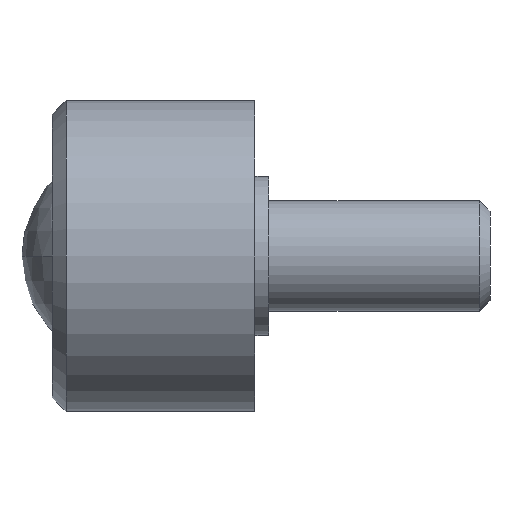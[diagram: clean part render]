
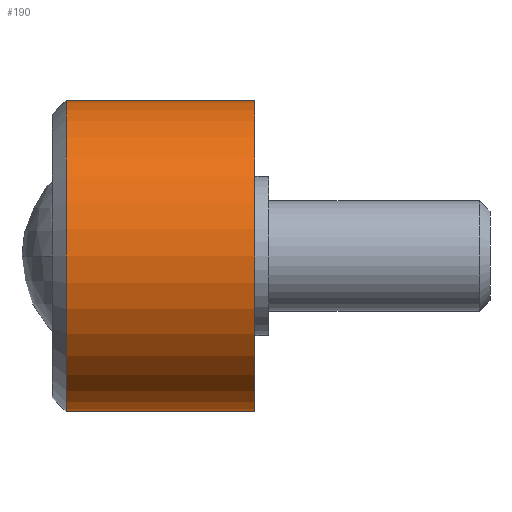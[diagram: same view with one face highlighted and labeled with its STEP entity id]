
A CAD part, left-side view. The second image highlights one B-rep face of the part: STEP entity #190.
In plain terms, the highlighted cylindrical face has radius 22.5 mm (diameter 45 mm), a partial arc.
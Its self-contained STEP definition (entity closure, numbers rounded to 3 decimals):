
#26 = CARTESIAN_POINT ( 'NONE',  ( 0., 0., -22.5 ) ) ;
#56 = VERTEX_POINT ( 'NONE', #577 ) ;
#66 = DIRECTION ( 'NONE',  ( 0., -1., 0. ) ) ;
#101 = ORIENTED_EDGE ( 'NONE', *, *, #470, .T. ) ;
#135 = CARTESIAN_POINT ( 'NONE',  ( 0., 0., 0. ) ) ;
#175 = DIRECTION ( 'NONE',  ( 0., 0., -1. ) ) ;
#190 = ADVANCED_FACE ( 'NONE', ( #406 ), #414, .T. ) ;
#206 = VERTEX_POINT ( 'NONE', #538 ) ;
#221 = DIRECTION ( 'NONE',  ( 0., -1., 0. ) ) ;
#228 = EDGE_CURVE ( 'NONE', #206, #56, #422, .T. ) ;
#233 = AXIS2_PLACEMENT_3D ( 'NONE', #135, #380, #389 ) ;
#275 = LINE ( 'NONE', #521, #545 ) ;
#300 = VERTEX_POINT ( 'NONE', #26 ) ;
#314 = EDGE_LOOP ( 'NONE', ( #728, #101, #721, #631 ) ) ;
#367 = VERTEX_POINT ( 'NONE', #439 ) ;
#380 = DIRECTION ( 'NONE',  ( 0., -1., 0. ) ) ;
#389 = DIRECTION ( 'NONE',  ( 0., 0., -1. ) ) ;
#406 = FACE_OUTER_BOUND ( 'NONE', #314, .T. ) ;
#409 = DIRECTION ( 'NONE',  ( 0., -1., 0. ) ) ;
#414 = CYLINDRICAL_SURFACE ( 'NONE', #544, 22.5 ) ;
#422 = LINE ( 'NONE', #490, #688 ) ;
#439 = CARTESIAN_POINT ( 'NONE',  ( 0., 27.3, -22.5 ) ) ;
#468 = AXIS2_PLACEMENT_3D ( 'NONE', #650, #409, #770 ) ;
#470 = EDGE_CURVE ( 'NONE', #206, #367, #665, .T. ) ;
#483 = EDGE_CURVE ( 'NONE', #367, #300, #275, .T. ) ;
#490 = CARTESIAN_POINT ( 'NONE',  ( 0., 0., 22.5 ) ) ;
#521 = CARTESIAN_POINT ( 'NONE',  ( 0., 0., -22.5 ) ) ;
#536 = DIRECTION ( 'NONE',  ( 0., -1., 0. ) ) ;
#538 = CARTESIAN_POINT ( 'NONE',  ( 0., 27.3, 22.5 ) ) ;
#544 = AXIS2_PLACEMENT_3D ( 'NONE', #594, #536, #175 ) ;
#545 = VECTOR ( 'NONE', #221, 1000. ) ;
#570 = CIRCLE ( 'NONE', #233, 22.5 ) ;
#577 = CARTESIAN_POINT ( 'NONE',  ( 0., 0., 22.5 ) ) ;
#594 = CARTESIAN_POINT ( 'NONE',  ( 0., 0., 0. ) ) ;
#631 = ORIENTED_EDGE ( 'NONE', *, *, #674, .F. ) ;
#650 = CARTESIAN_POINT ( 'NONE',  ( 0., 27.3, 0. ) ) ;
#665 = CIRCLE ( 'NONE', #468, 22.5 ) ;
#674 = EDGE_CURVE ( 'NONE', #56, #300, #570, .T. ) ;
#688 = VECTOR ( 'NONE', #66, 1000. ) ;
#721 = ORIENTED_EDGE ( 'NONE', *, *, #483, .T. ) ;
#728 = ORIENTED_EDGE ( 'NONE', *, *, #228, .F. ) ;
#770 = DIRECTION ( 'NONE',  ( 0., 0., 1. ) ) ;
